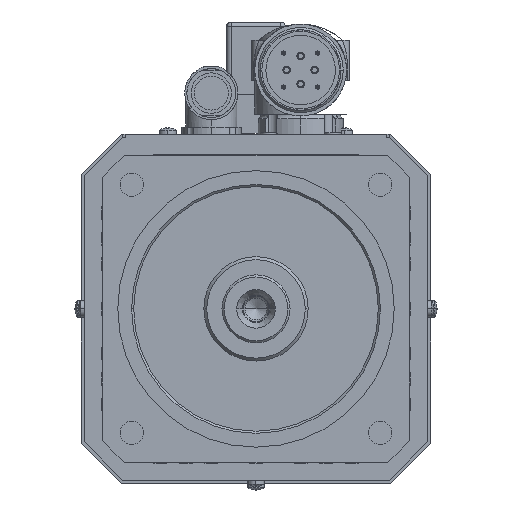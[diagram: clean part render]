
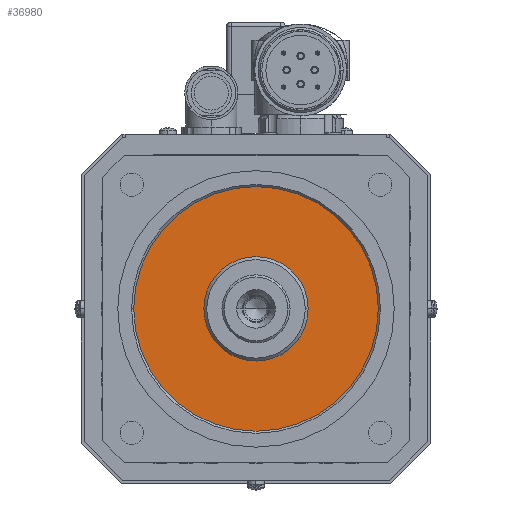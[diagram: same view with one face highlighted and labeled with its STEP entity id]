
A CAD part, left-side view. The second image highlights one B-rep face of the part: STEP entity #36980.
In plain terms, the highlighted planar face has unit normal (-1, 0, 0).
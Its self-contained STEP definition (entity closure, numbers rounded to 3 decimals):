
#16795=CARTESIAN_POINT('',(1.5,0.,0.));
#16796=DIRECTION('',(-1.,0.,0.));
#16797=DIRECTION('',(0.,-1.,0.));
#16798=AXIS2_PLACEMENT_3D('',#16795,#16796,#16797);
#16803=CARTESIAN_POINT('',(1.5,0.,0.));
#16804=DIRECTION('',(-1.,0.,0.));
#16805=DIRECTION('',(0.,1.,0.));
#16806=AXIS2_PLACEMENT_3D('',#16803,#16804,#16805);
#16811=CARTESIAN_POINT('',(1.5,0.,0.));
#16812=DIRECTION('',(1.,0.,0.));
#16813=DIRECTION('',(0.,1.,0.));
#16814=AXIS2_PLACEMENT_3D('',#16811,#16812,#16813);
#16819=CARTESIAN_POINT('',(1.5,0.,0.));
#16820=DIRECTION('',(1.,0.,0.));
#16821=DIRECTION('',(0.,-1.,0.));
#16822=AXIS2_PLACEMENT_3D('',#16819,#16820,#16821);
#17263=CARTESIAN_POINT('',(1.5,-24.533,0.));
#17265=VERTEX_POINT('',#17263);
#17266=CARTESIAN_POINT('',(1.5,24.533,0.));
#17267=VERTEX_POINT('',#17266);
#19793=CARTESIAN_POINT('',(1.5,57.5,0.));
#19794=CARTESIAN_POINT('',(1.5,-57.5,0.));
#19795=VERTEX_POINT('',#19793);
#19796=VERTEX_POINT('',#19794);
#36967=CARTESIAN_POINT('',(1.5,0.,0.));
#36968=DIRECTION('',(-1.,0.,0.));
#36969=DIRECTION('',(0.,-1.,0.));
#36970=AXIS2_PLACEMENT_3D('',#36967,#36968,#36969);
#36971=PLANE('',#36970);
#36972=ORIENTED_EDGE('',*,*,#36955,.F.);
#36973=ORIENTED_EDGE('',*,*,#36222,.F.);
#36974=EDGE_LOOP('',(#36972,#36973));
#36975=FACE_OUTER_BOUND('',#36974,.F.);
#36976=ORIENTED_EDGE('',*,*,#21210,.F.);
#36977=ORIENTED_EDGE('',*,*,#35368,.F.);
#36978=EDGE_LOOP('',(#36976,#36977));
#36979=FACE_BOUND('',#36978,.F.);
#16799=CIRCLE('',#16798,57.5);
#16807=CIRCLE('',#16806,57.5);
#16815=CIRCLE('',#16814,24.533);
#16823=CIRCLE('',#16822,24.533);
#21210=EDGE_CURVE('',#17267,#17265,#16815,.T.);
#35368=EDGE_CURVE('',#17265,#17267,#16823,.T.);
#36222=EDGE_CURVE('',#19795,#19796,#16807,.T.);
#36955=EDGE_CURVE('',#19796,#19795,#16799,.T.);
#36980=ADVANCED_FACE('',(#36975,#36979),#36971,.T.);
